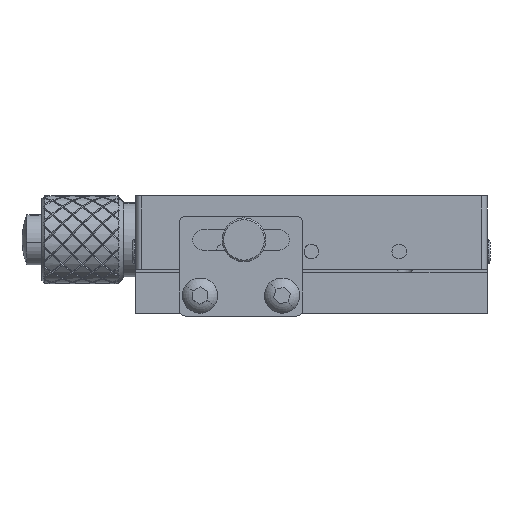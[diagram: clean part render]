
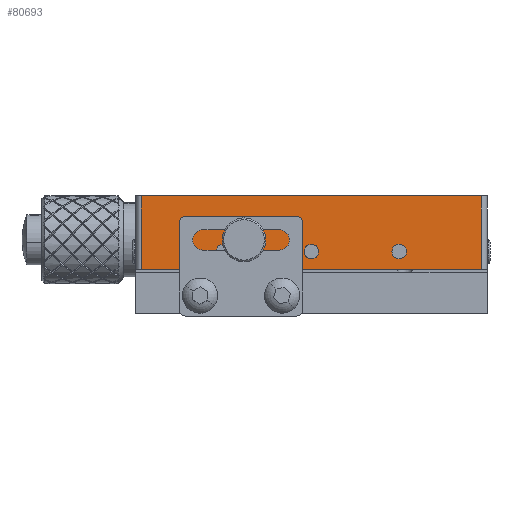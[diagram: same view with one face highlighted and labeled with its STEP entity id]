
A CAD part, left-side view. The second image highlights one B-rep face of the part: STEP entity #80693.
In plain terms, the highlighted planar face has unit normal (-1, 0, 0).
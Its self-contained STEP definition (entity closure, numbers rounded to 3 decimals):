
#4858 = EDGE_LOOP ( 'NONE', ( #88688, #88689, #88690, #88691 ) ) ;
#4860 = EDGE_LOOP ( 'NONE', ( #88682, #88683 ) ) ;
#4862 = EDGE_LOOP ( 'NONE', ( #88680, #88681 ) ) ;
#4863 = EDGE_LOOP ( 'NONE', ( #88686, #88687 ) ) ;
#4864 = EDGE_LOOP ( 'NONE', ( #88684, #88685 ) ) ;
#9589 = EDGE_CURVE ( 'NONE', #82651, #82650, #24197, .T. ) ;
#9597 = EDGE_CURVE ( 'NONE', #82907, #82789, #24208, .T. ) ;
#9601 = EDGE_CURVE ( 'NONE', #82796, #82930, #24213, .T. ) ;
#9788 = EDGE_CURVE ( 'NONE', #83013, #83012, #24507, .T. ) ;
#9813 = EDGE_CURVE ( 'NONE', #83017, #83021, #24512, .T. ) ;
#9827 = EDGE_CURVE ( 'NONE', #83017, #83013, #24555, .T. ) ;
#9829 = EDGE_CURVE ( 'NONE', #82657, #82658, #24560, .T. ) ;
#9830 = EDGE_CURVE ( 'NONE', #82650, #82651, #24557, .T. ) ;
#9831 = EDGE_CURVE ( 'NONE', #82789, #82907, #24563, .T. ) ;
#9832 = EDGE_CURVE ( 'NONE', #82930, #82796, #24564, .T. ) ;
#9833 = EDGE_CURVE ( 'NONE', #83021, #83012, #24565, .T. ) ;
#19155 = AXIS2_PLACEMENT_3D ( 'NONE', #26433, #26435, #26437 ) ;
#19159 = AXIS2_PLACEMENT_3D ( 'NONE', #29195, #29196, #29197 ) ;
#19164 = AXIS2_PLACEMENT_3D ( 'NONE', #29206, #29207, #29208 ) ;
#19407 = AXIS2_PLACEMENT_3D ( 'NONE', #30067, #30068, #30069 ) ;
#19410 = AXIS2_PLACEMENT_3D ( 'NONE', #30070, #30072, #30073 ) ;
#19412 = AXIS2_PLACEMENT_3D ( 'NONE', #30076, #30077, #30078 ) ;
#19414 = AXIS2_PLACEMENT_3D ( 'NONE', #30080, #30081, #30083 ) ;
#24197 = CIRCLE ( 'NONE', #19155, 1.25 ) ;
#24208 = CIRCLE ( 'NONE', #19159, 1.25 ) ;
#24213 = CIRCLE ( 'NONE', #19164, 1.25 ) ;
#24507 = LINE ( 'NONE', #29852, #24511 ) ;
#24511 = VECTOR ( 'NONE', #29851, 1000. ) ;
#24512 = LINE ( 'NONE', #30016, #24537 ) ;
#24537 = VECTOR ( 'NONE', #30006, 1000. ) ;
#24555 = LINE ( 'NONE', #30061, #24559 ) ;
#24557 = CIRCLE ( 'NONE', #19410, 1.25 ) ;
#24559 = VECTOR ( 'NONE', #30060, 1000. ) ;
#24560 = CIRCLE ( 'NONE', #19407, 1.25 ) ;
#24563 = CIRCLE ( 'NONE', #19412, 1.25 ) ;
#24564 = CIRCLE ( 'NONE', #19414, 1.25 ) ;
#24565 = LINE ( 'NONE', #30074, #24567 ) ;
#24567 = VECTOR ( 'NONE', #30075, 1000. ) ;
#26433 = CARTESIAN_POINT ( 'NONE',  ( 3840.903, 4046.341, 3. ) ) ;
#26435 = DIRECTION ( 'NONE',  ( -1., 0., 0. ) ) ;
#26437 = DIRECTION ( 'NONE',  ( 0., 0., 1. ) ) ;
#27605 = CIRCLE ( 'NONE', #55969, 1.25 ) ;
#28339 = CARTESIAN_POINT ( 'NONE',  ( 3840.903, 4046.341, 4.25 ) ) ;
#28340 = CARTESIAN_POINT ( 'NONE',  ( 3840.903, 4046.341, 1.75 ) ) ;
#28346 = CARTESIAN_POINT ( 'NONE',  ( 3840.903, 4072.841, 6.25 ) ) ;
#28347 = CARTESIAN_POINT ( 'NONE',  ( 3840.903, 4072.841, 3.75 ) ) ;
#28478 = CARTESIAN_POINT ( 'NONE',  ( 3840.903, 4061.341, 4.25 ) ) ;
#28485 = CARTESIAN_POINT ( 'NONE',  ( 3840.903, 4076.341, 1.75 ) ) ;
#28596 = CARTESIAN_POINT ( 'NONE',  ( 3840.903, 4061.341, 1.75 ) ) ;
#28619 = CARTESIAN_POINT ( 'NONE',  ( 3840.903, 4076.341, 4.25 ) ) ;
#28701 = CARTESIAN_POINT ( 'NONE',  ( 3840.903, 4032.341, 0. ) ) ;
#28702 = CARTESIAN_POINT ( 'NONE',  ( 3840.903, 4090.341, 0. ) ) ;
#28706 = CARTESIAN_POINT ( 'NONE',  ( 3840.903, 4090.341, 12.5 ) ) ;
#28710 = CARTESIAN_POINT ( 'NONE',  ( 3840.903, 4032.341, 12.5 ) ) ;
#29195 = CARTESIAN_POINT ( 'NONE',  ( 3840.903, 4061.341, 3. ) ) ;
#29196 = DIRECTION ( 'NONE',  ( -1., 0., 0. ) ) ;
#29197 = DIRECTION ( 'NONE',  ( 0., 0., 1. ) ) ;
#29206 = CARTESIAN_POINT ( 'NONE',  ( 3840.903, 4076.341, 3. ) ) ;
#29207 = DIRECTION ( 'NONE',  ( -1., 0., 0. ) ) ;
#29208 = DIRECTION ( 'NONE',  ( 0., 0., 1. ) ) ;
#29851 = DIRECTION ( 'NONE',  ( 0., -1., 0. ) ) ;
#29852 = CARTESIAN_POINT ( 'NONE',  ( 3840.903, 4090.341, 0. ) ) ;
#30006 = DIRECTION ( 'NONE',  ( 0., -1., 0. ) ) ;
#30016 = CARTESIAN_POINT ( 'NONE',  ( 3840.903, 4090.341, 12.5 ) ) ;
#30060 = DIRECTION ( 'NONE',  ( 0., 0., -1. ) ) ;
#30061 = CARTESIAN_POINT ( 'NONE',  ( 3840.903, 4090.341, 12.5 ) ) ;
#30067 = CARTESIAN_POINT ( 'NONE',  ( 3840.903, 4072.841, 5. ) ) ;
#30068 = DIRECTION ( 'NONE',  ( -1., 0., 0. ) ) ;
#30069 = DIRECTION ( 'NONE',  ( 0., 0., 1. ) ) ;
#30070 = CARTESIAN_POINT ( 'NONE',  ( 3840.903, 4046.341, 3. ) ) ;
#30072 = DIRECTION ( 'NONE',  ( -1., 0., 0. ) ) ;
#30073 = DIRECTION ( 'NONE',  ( 0., 0., 1. ) ) ;
#30074 = CARTESIAN_POINT ( 'NONE',  ( 3840.903, 4032.341, 12.5 ) ) ;
#30075 = DIRECTION ( 'NONE',  ( 0., 0., -1. ) ) ;
#30076 = CARTESIAN_POINT ( 'NONE',  ( 3840.903, 4061.341, 3. ) ) ;
#30077 = DIRECTION ( 'NONE',  ( -1., 0., 0. ) ) ;
#30078 = DIRECTION ( 'NONE',  ( 0., 0., 1. ) ) ;
#30080 = CARTESIAN_POINT ( 'NONE',  ( 3840.903, 4076.341, 3. ) ) ;
#30081 = DIRECTION ( 'NONE',  ( -1., 0., 0. ) ) ;
#30083 = DIRECTION ( 'NONE',  ( 0., 0., 1. ) ) ;
#42354 = CARTESIAN_POINT ( 'NONE',  ( 3840.903, 4072.841, 5. ) ) ;
#42355 = DIRECTION ( 'NONE',  ( -1., 0., 0. ) ) ;
#42356 = DIRECTION ( 'NONE',  ( 0., 0., 1. ) ) ;
#52587 = DIRECTION ( 'NONE',  ( 1., 0., 0. ) ) ;
#52598 = PLANE ( 'NONE',  #53868 ) ;
#52602 = CARTESIAN_POINT ( 'NONE',  ( 3840.903, 4090.341, 12.5 ) ) ;
#52607 = DIRECTION ( 'NONE',  ( 0., 1., 0. ) ) ;
#53868 = AXIS2_PLACEMENT_3D ( 'NONE', #52602, #52587, #52607 ) ;
#55969 = AXIS2_PLACEMENT_3D ( 'NONE', #42354, #42355, #42356 ) ;
#56687 = FACE_BOUND ( 'NONE', #4864, .T. ) ;
#56689 = FACE_BOUND ( 'NONE', #4863, .T. ) ;
#56692 = FACE_BOUND ( 'NONE', #4862, .T. ) ;
#56694 = FACE_OUTER_BOUND ( 'NONE', #4858, .T. ) ;
#56697 = FACE_BOUND ( 'NONE', #4860, .T. ) ;
#80693 = ADVANCED_FACE ( 'NONE', ( #56692, #56697, #56687, #56689, #56694 ), #52598, .F. ) ;
#82650 = VERTEX_POINT ( 'NONE', #28339 ) ;
#82651 = VERTEX_POINT ( 'NONE', #28340 ) ;
#82657 = VERTEX_POINT ( 'NONE', #28346 ) ;
#82658 = VERTEX_POINT ( 'NONE', #28347 ) ;
#82789 = VERTEX_POINT ( 'NONE', #28478 ) ;
#82796 = VERTEX_POINT ( 'NONE', #28485 ) ;
#82907 = VERTEX_POINT ( 'NONE', #28596 ) ;
#82930 = VERTEX_POINT ( 'NONE', #28619 ) ;
#83012 = VERTEX_POINT ( 'NONE', #28701 ) ;
#83013 = VERTEX_POINT ( 'NONE', #28702 ) ;
#83017 = VERTEX_POINT ( 'NONE', #28706 ) ;
#83021 = VERTEX_POINT ( 'NONE', #28710 ) ;
#83897 = EDGE_CURVE ( 'NONE', #82658, #82657, #27605, .T. ) ;
#88680 = ORIENTED_EDGE ( 'NONE', *, *, #9829, .F. ) ;
#88681 = ORIENTED_EDGE ( 'NONE', *, *, #83897, .F. ) ;
#88682 = ORIENTED_EDGE ( 'NONE', *, *, #9830, .F. ) ;
#88683 = ORIENTED_EDGE ( 'NONE', *, *, #9589, .F. ) ;
#88684 = ORIENTED_EDGE ( 'NONE', *, *, #9831, .F. ) ;
#88685 = ORIENTED_EDGE ( 'NONE', *, *, #9597, .F. ) ;
#88686 = ORIENTED_EDGE ( 'NONE', *, *, #9832, .F. ) ;
#88687 = ORIENTED_EDGE ( 'NONE', *, *, #9601, .F. ) ;
#88688 = ORIENTED_EDGE ( 'NONE', *, *, #9788, .T. ) ;
#88689 = ORIENTED_EDGE ( 'NONE', *, *, #9833, .F. ) ;
#88690 = ORIENTED_EDGE ( 'NONE', *, *, #9813, .F. ) ;
#88691 = ORIENTED_EDGE ( 'NONE', *, *, #9827, .T. ) ;
